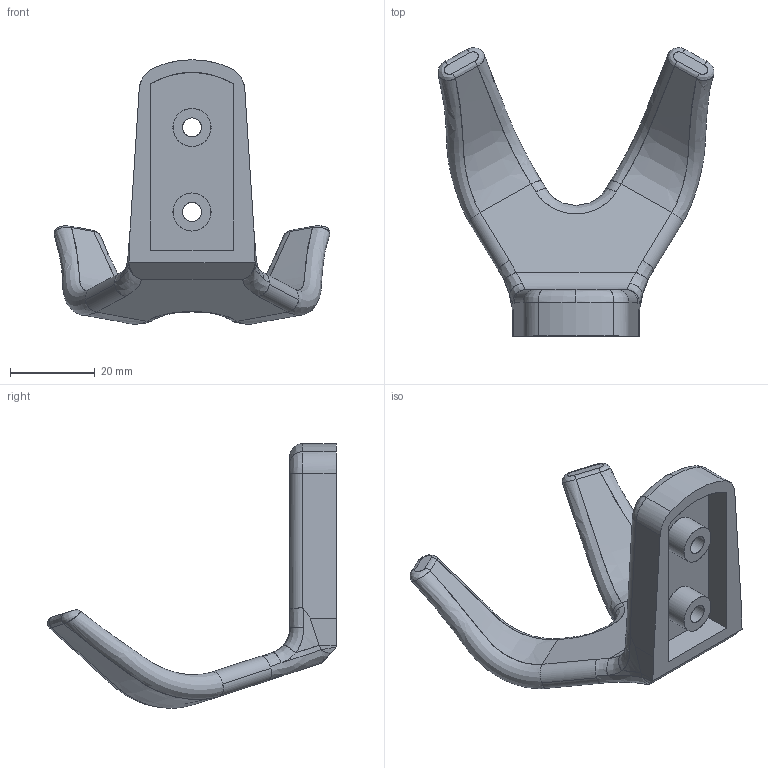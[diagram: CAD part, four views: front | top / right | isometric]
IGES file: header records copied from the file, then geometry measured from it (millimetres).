
Start section: C
Global section: file name: 0417.igs; native system: By Siemens PLM Incorporated; preprocessor: XPlus GENERIC/IGES 16.0.42; author: Author; organization: Title; date: 20231211.121239; units: millimetre
Bounding box: 65.26 x 68.24 x 62.55 mm (x, y, z)
Surface area: 10665.5 mm2 (no closed solid volume)
Topology: 0 solids, 0 shells, 78 faces, 392 edges, 390 vertices
Faces by surface type: bspline 78
